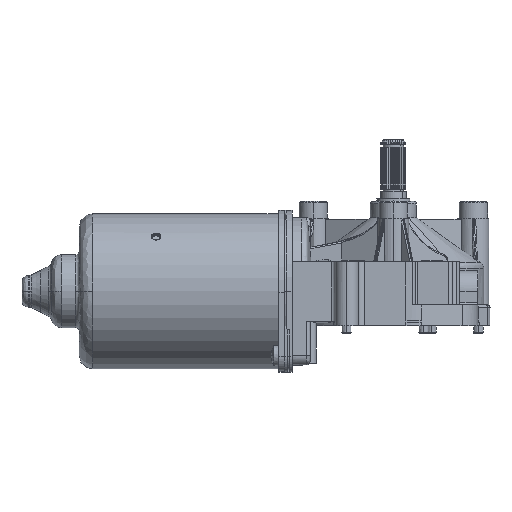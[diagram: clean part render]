
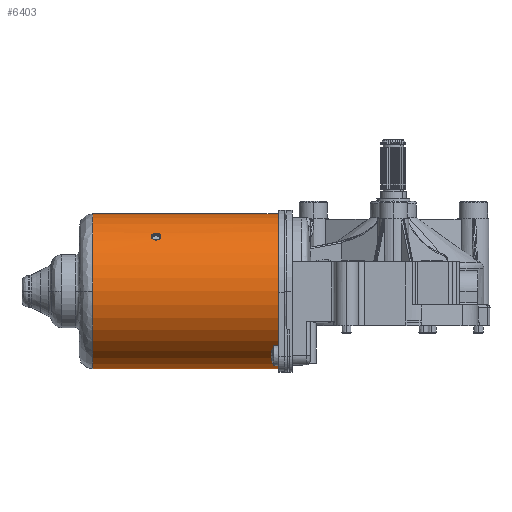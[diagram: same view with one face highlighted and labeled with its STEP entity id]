
A CAD part, left-side view. The second image highlights one B-rep face of the part: STEP entity #6403.
In plain terms, the highlighted cylindrical face has radius 30.2 mm (diameter 60.4 mm), a partial arc.
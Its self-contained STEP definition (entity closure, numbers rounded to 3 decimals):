
#1552 = DIRECTION ( 'NONE',  ( 0., 0., -1. ) ) ;
#6091 = VERTEX_POINT ( 'NONE', #15979 ) ;
#6095 = VERTEX_POINT ( 'NONE', #15972 ) ;
#6108 = EDGE_CURVE ( 'NONE', #6162, #6091, #15520, .T. ) ;
#6157 = VERTEX_POINT ( 'NONE', #16211 ) ;
#6159 = EDGE_CURVE ( 'NONE', #6095, #6157, #16202, .T. ) ;
#6162 = VERTEX_POINT ( 'NONE', #16216 ) ;
#6339 = VERTEX_POINT ( 'NONE', #17074 ) ;
#6341 = EDGE_CURVE ( 'NONE', #6358, #6339, #17126, .T. ) ;
#6358 = VERTEX_POINT ( 'NONE', #17124 ) ;
#6403 = ADVANCED_FACE ( 'NONE', ( #17243, #17242 ), #17274, .T. ) ;
#6404 = ORIENTED_EDGE ( 'NONE', *, *, #6765, .F. ) ;
#6410 = EDGE_LOOP ( 'NONE', ( #6404, #6460, #6461, #6462, #6491, #6535 ) ) ;
#6436 = EDGE_CURVE ( 'NONE', #6339, #6358, #17516, .T. ) ;
#6454 = EDGE_CURVE ( 'NONE', #6091, #6800, #17592, .T. ) ;
#6460 = ORIENTED_EDGE ( 'NONE', *, *, #6159, .T. ) ;
#6461 = ORIENTED_EDGE ( 'NONE', *, *, #6503, .T. ) ;
#6462 = ORIENTED_EDGE ( 'NONE', *, *, #6667, .T. ) ;
#6490 = ORIENTED_EDGE ( 'NONE', *, *, #6341, .T. ) ;
#6491 = ORIENTED_EDGE ( 'NONE', *, *, #6108, .T. ) ;
#6503 = EDGE_CURVE ( 'NONE', #6157, #6563, #17775, .T. ) ;
#6524 = ORIENTED_EDGE ( 'NONE', *, *, #6436, .T. ) ;
#6535 = ORIENTED_EDGE ( 'NONE', *, *, #6454, .T. ) ;
#6536 = EDGE_LOOP ( 'NONE', ( #6490, #6524 ) ) ;
#6563 = VERTEX_POINT ( 'NONE', #18075 ) ;
#6667 = EDGE_CURVE ( 'NONE', #6563, #6162, #18510, .T. ) ;
#6765 = EDGE_CURVE ( 'NONE', #6095, #6800, #18797, .T. ) ;
#6800 = VERTEX_POINT ( 'NONE', #18913 ) ;
#15519 = AXIS2_PLACEMENT_3D ( 'NONE', #15747, #15746, #1552 ) ;
#15520 = CIRCLE ( 'NONE', #15519, 30.2 ) ;
#15746 = DIRECTION ( 'NONE',  ( 0., 1., 0. ) ) ;
#15747 = CARTESIAN_POINT ( 'NONE',  ( -35., 44.9, -5.163 ) ) ;
#15972 = CARTESIAN_POINT ( 'NONE',  ( -35., 117.1, 25.037 ) ) ;
#15979 = CARTESIAN_POINT ( 'NONE',  ( -65.2, 44.9, -5.163 ) ) ;
#16198 = DIRECTION ( 'NONE',  ( 0., 0., -1. ) ) ;
#16199 = DIRECTION ( 'NONE',  ( 0., -1., 0. ) ) ;
#16200 = CARTESIAN_POINT ( 'NONE',  ( -35., 117.1, -5.163 ) ) ;
#16201 = AXIS2_PLACEMENT_3D ( 'NONE', #16200, #16199, #16198 ) ;
#16202 = CIRCLE ( 'NONE', #16201, 30.2 ) ;
#16211 = CARTESIAN_POINT ( 'NONE',  ( -65.2, 117.1, -5.163 ) ) ;
#16216 = CARTESIAN_POINT ( 'NONE',  ( -35., 44.9, -35.363 ) ) ;
#17074 = CARTESIAN_POINT ( 'NONE',  ( -57.664, 92.4, 14.796 ) ) ;
#17107 = CARTESIAN_POINT ( 'NONE',  ( -57.664, 92.4, 14.796 ) ) ;
#17108 = CARTESIAN_POINT ( 'NONE',  ( -57.664, 92.147, 14.796 ) ) ;
#17109 = CARTESIAN_POINT ( 'NONE',  ( -57.632, 91.904, 14.833 ) ) ;
#17110 = CARTESIAN_POINT ( 'NONE',  ( -57.502, 91.438, 14.979 ) ) ;
#17111 = CARTESIAN_POINT ( 'NONE',  ( -57.409, 91.233, 15.083 ) ) ;
#17112 = CARTESIAN_POINT ( 'NONE',  ( -57.166, 90.876, 15.349 ) ) ;
#17113 = CARTESIAN_POINT ( 'NONE',  ( -57.026, 90.74, 15.5 ) ) ;
#17114 = CARTESIAN_POINT ( 'NONE',  ( -56.703, 90.548, 15.839 ) ) ;
#17115 = CARTESIAN_POINT ( 'NONE',  ( -56.533, 90.5, 16.013 ) ) ;
#17116 = CARTESIAN_POINT ( 'NONE',  ( -56.175, 90.5, 16.371 ) ) ;
#17117 = CARTESIAN_POINT ( 'NONE',  ( -56.001, 90.548, 16.541 ) ) ;
#17118 = CARTESIAN_POINT ( 'NONE',  ( -55.663, 90.74, 16.863 ) ) ;
#17119 = CARTESIAN_POINT ( 'NONE',  ( -55.511, 90.877, 17.004 ) ) ;
#17120 = CARTESIAN_POINT ( 'NONE',  ( -55.246, 91.233, 17.246 ) ) ;
#17121 = CARTESIAN_POINT ( 'NONE',  ( -55.142, 91.438, 17.339 ) ) ;
#17122 = CARTESIAN_POINT ( 'NONE',  ( -54.996, 91.904, 17.469 ) ) ;
#17123 = CARTESIAN_POINT ( 'NONE',  ( -54.959, 92.147, 17.501 ) ) ;
#17124 = CARTESIAN_POINT ( 'NONE',  ( -54.959, 92.4, 17.501 ) ) ;
#17125 = CARTESIAN_POINT ( 'NONE',  ( -54.959, 92.4, 17.501 ) ) ;
#17126 = B_SPLINE_CURVE_WITH_KNOTS ( 'NONE', 3,
 ( #17125, #17123, #17122, #17121, #17120, #17119, #17118, #17117, #17116, #17115, #17114, #17113, #17112, #17111, #17110, #17109, #17108, #17107 ),
 .UNSPECIFIED., .F., .F.,
 ( 4, 2, 2, 2, 2, 2, 2, 2, 4 ),
 ( 0., 0.125, 0.25, 0.375, 0.5, 0.625, 0.75, 0.875, 1. ),
 .UNSPECIFIED. ) ;
#17241 = CARTESIAN_POINT ( 'NONE',  ( -35., 117.1, -5.163 ) ) ;
#17242 = FACE_BOUND ( 'NONE', #6536, .T. ) ;
#17243 = FACE_OUTER_BOUND ( 'NONE', #6410, .T. ) ;
#17271 = DIRECTION ( 'NONE',  ( 0., 0., -1. ) ) ;
#17272 = DIRECTION ( 'NONE',  ( 0., -1., 0. ) ) ;
#17273 = AXIS2_PLACEMENT_3D ( 'NONE', #17241, #17272, #17271 ) ;
#17274 = CYLINDRICAL_SURFACE ( 'NONE', #17273, 30.2 ) ;
#17494 = CARTESIAN_POINT ( 'NONE',  ( -54.959, 92.4, 17.501 ) ) ;
#17495 = CARTESIAN_POINT ( 'NONE',  ( -54.959, 92.653, 17.501 ) ) ;
#17496 = CARTESIAN_POINT ( 'NONE',  ( -54.996, 92.896, 17.469 ) ) ;
#17497 = CARTESIAN_POINT ( 'NONE',  ( -55.142, 93.362, 17.339 ) ) ;
#17498 = CARTESIAN_POINT ( 'NONE',  ( -55.246, 93.567, 17.246 ) ) ;
#17499 = CARTESIAN_POINT ( 'NONE',  ( -55.512, 93.924, 17.003 ) ) ;
#17500 = CARTESIAN_POINT ( 'NONE',  ( -55.663, 94.06, 16.863 ) ) ;
#17501 = CARTESIAN_POINT ( 'NONE',  ( -56.002, 94.252, 16.54 ) ) ;
#17502 = CARTESIAN_POINT ( 'NONE',  ( -56.176, 94.3, 16.37 ) ) ;
#17503 = CARTESIAN_POINT ( 'NONE',  ( -56.534, 94.3, 16.012 ) ) ;
#17504 = CARTESIAN_POINT ( 'NONE',  ( -56.704, 94.252, 15.838 ) ) ;
#17505 = CARTESIAN_POINT ( 'NONE',  ( -57.026, 94.06, 15.5 ) ) ;
#17506 = CARTESIAN_POINT ( 'NONE',  ( -57.167, 93.923, 15.348 ) ) ;
#17507 = CARTESIAN_POINT ( 'NONE',  ( -57.409, 93.567, 15.083 ) ) ;
#17508 = CARTESIAN_POINT ( 'NONE',  ( -57.502, 93.362, 14.979 ) ) ;
#17509 = CARTESIAN_POINT ( 'NONE',  ( -57.632, 92.896, 14.833 ) ) ;
#17510 = CARTESIAN_POINT ( 'NONE',  ( -57.664, 92.653, 14.796 ) ) ;
#17511 = CARTESIAN_POINT ( 'NONE',  ( -57.664, 92.4, 14.796 ) ) ;
#17516 = B_SPLINE_CURVE_WITH_KNOTS ( 'NONE', 3,
 ( #17511, #17510, #17509, #17508, #17507, #17506, #17505, #17504, #17503, #17502, #17501, #17500, #17499, #17498, #17497, #17496, #17495, #17494 ),
 .UNSPECIFIED., .F., .F.,
 ( 4, 2, 2, 2, 2, 2, 2, 2, 4 ),
 ( 0., 0.125, 0.25, 0.375, 0.5, 0.625, 0.75, 0.875, 1. ),
 .UNSPECIFIED. ) ;
#17589 = DIRECTION ( 'NONE',  ( 0., 0., -1. ) ) ;
#17590 = DIRECTION ( 'NONE',  ( 0., 1., 0. ) ) ;
#17591 = AXIS2_PLACEMENT_3D ( 'NONE', #17635, #17590, #17589 ) ;
#17592 = CIRCLE ( 'NONE', #17591, 30.2 ) ;
#17635 = CARTESIAN_POINT ( 'NONE',  ( -35., 44.9, -5.163 ) ) ;
#17761 = DIRECTION ( 'NONE',  ( 0., 0., -1. ) ) ;
#17762 = DIRECTION ( 'NONE',  ( 0., -1., 0. ) ) ;
#17763 = CARTESIAN_POINT ( 'NONE',  ( -35., 117.1, -5.163 ) ) ;
#17774 = AXIS2_PLACEMENT_3D ( 'NONE', #17763, #17762, #17761 ) ;
#17775 = CIRCLE ( 'NONE', #17774, 30.2 ) ;
#18075 = CARTESIAN_POINT ( 'NONE',  ( -35., 117.1, -35.363 ) ) ;
#18507 = DIRECTION ( 'NONE',  ( 0., -1., 0. ) ) ;
#18508 = VECTOR ( 'NONE', #18507, 1000. ) ;
#18509 = CARTESIAN_POINT ( 'NONE',  ( -35., 117.1, -35.363 ) ) ;
#18510 = LINE ( 'NONE', #18509, #18508 ) ;
#18794 = DIRECTION ( 'NONE',  ( 0., -1., 0. ) ) ;
#18795 = VECTOR ( 'NONE', #18794, 1000. ) ;
#18796 = CARTESIAN_POINT ( 'NONE',  ( -35., 117.1, 25.037 ) ) ;
#18797 = LINE ( 'NONE', #18796, #18795 ) ;
#18913 = CARTESIAN_POINT ( 'NONE',  ( -35., 44.9, 25.037 ) ) ;
